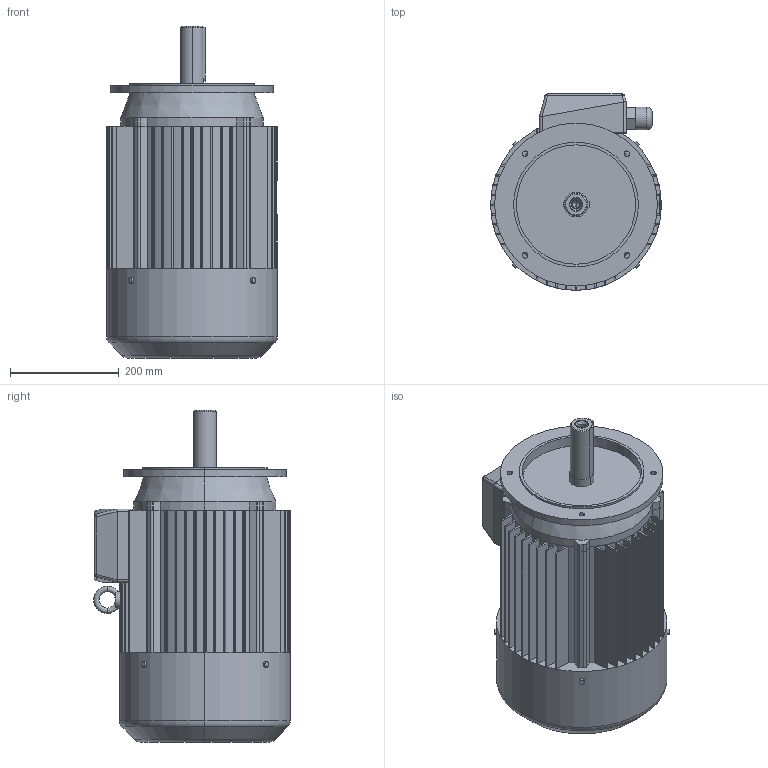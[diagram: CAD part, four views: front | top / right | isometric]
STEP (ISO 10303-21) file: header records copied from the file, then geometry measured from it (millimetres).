
FILE_DESCRIPTION (( 'STEP AP203' ), '1' );
FILE_NAME ('SKg 160M-B14-C1.STEP', '2010-02-09T12:44:04', ( 'INDUKTA' ), ( 'CANTONI MOTOR' ), 'SwSTEP 2.0', 'SolidWorks 2003064', '' );
FILE_SCHEMA (( 'CONFIG_CONTROL_DESIGN' ));
Length unit declared in the file: millimetre
Products named in the file (1): SKg 160M-B14-C1
Bounding box: 315 x 362.5 x 612 mm (x, y, z)
Volume: 32850167.5 mm3; surface area: 1546521.4 mm2
Topology: 12 solids, 12 shells, 501 faces, 1331 edges, 861 vertices
Faces by surface type: plane 244, cylinder 181, bspline 42, torus 16, cone 14, sphere 4
Entity records: 18692 total; most frequent: CARTESIAN_POINT 6181, ORIENTED_EDGE 2650, DIRECTION 2534, EDGE_CURVE 1325, VERTEX_POINT 861, AXIS2_PLACEMENT_3D 858, LINE 818, VECTOR 818
